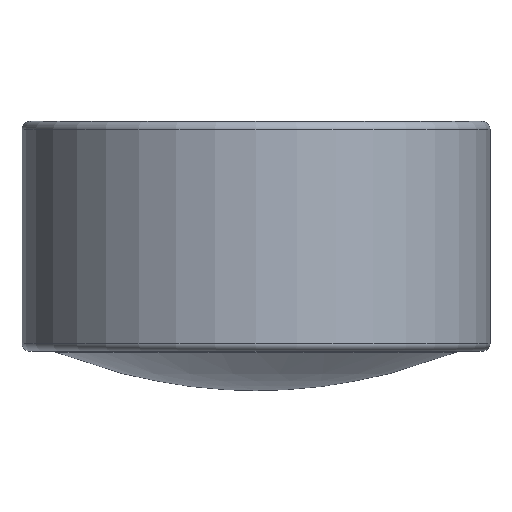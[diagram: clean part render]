
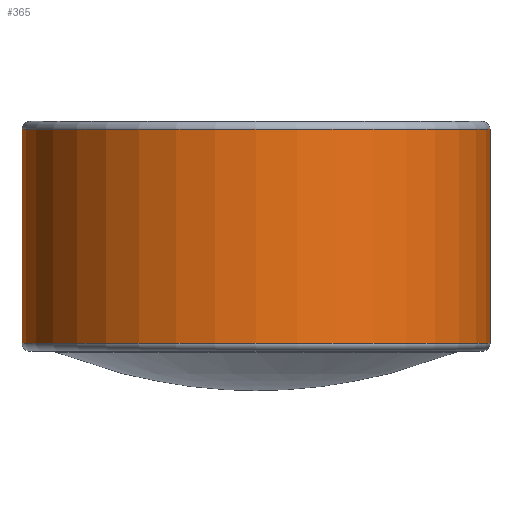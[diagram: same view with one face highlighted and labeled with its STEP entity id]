
A CAD part, front view. The second image highlights one B-rep face of the part: STEP entity #365.
In plain terms, the highlighted cylindrical face has radius 1.5 mm (diameter 3 mm), a partial arc.
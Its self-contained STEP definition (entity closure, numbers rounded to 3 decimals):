
#34=CARTESIAN_POINT('',(0.,0.,0.302));
#35=DIRECTION('',(0.,0.,-1.));
#36=DIRECTION('',(1.,0.,0.));
#37=AXIS2_PLACEMENT_3D('',#34,#35,#36);
#39=DIRECTION('',(0.,0.,-1.));
#40=VECTOR('',#39,1.373);
#41=CARTESIAN_POINT('',(-1.5,0.,1.675));
#42=LINE('',#41,#40);
#43=CARTESIAN_POINT('',(0.,0.,1.675));
#44=DIRECTION('',(0.,0.,-1.));
#45=DIRECTION('',(1.,0.,0.));
#46=AXIS2_PLACEMENT_3D('',#43,#44,#45);
#48=DIRECTION('',(0.,0.,-1.));
#49=VECTOR('',#48,1.373);
#50=CARTESIAN_POINT('',(1.5,0.,1.675));
#51=LINE('',#50,#49);
#272=CARTESIAN_POINT('',(1.5,0.,0.302));
#273=CARTESIAN_POINT('',(-1.5,0.,0.302));
#274=VERTEX_POINT('',#272);
#275=VERTEX_POINT('',#273);
#276=CARTESIAN_POINT('',(1.5,0.,1.675));
#277=CARTESIAN_POINT('',(-1.5,0.,1.675));
#278=VERTEX_POINT('',#276);
#279=VERTEX_POINT('',#277);
#351=CARTESIAN_POINT('',(0.,0.,-0.086));
#352=DIRECTION('',(0.,0.,1.));
#353=DIRECTION('',(-1.,0.,0.));
#354=AXIS2_PLACEMENT_3D('',#351,#352,#353);
#355=CYLINDRICAL_SURFACE('',#354,1.5);
#357=ORIENTED_EDGE('',*,*,#356,.T.);
#359=ORIENTED_EDGE('',*,*,#358,.F.);
#360=ORIENTED_EDGE('',*,*,#341,.F.);
#362=ORIENTED_EDGE('',*,*,#361,.T.);
#363=EDGE_LOOP('',(#357,#359,#360,#362));
#364=FACE_OUTER_BOUND('',#363,.F.);
#365=ADVANCED_FACE('',(#364),#355,.T.);
#38=CIRCLE('',#37,1.5);
#47=CIRCLE('',#46,1.5);
#341=EDGE_CURVE('',#278,#279,#47,.T.);
#356=EDGE_CURVE('',#274,#275,#38,.T.);
#358=EDGE_CURVE('',#279,#275,#42,.T.);
#361=EDGE_CURVE('',#278,#274,#51,.T.);
